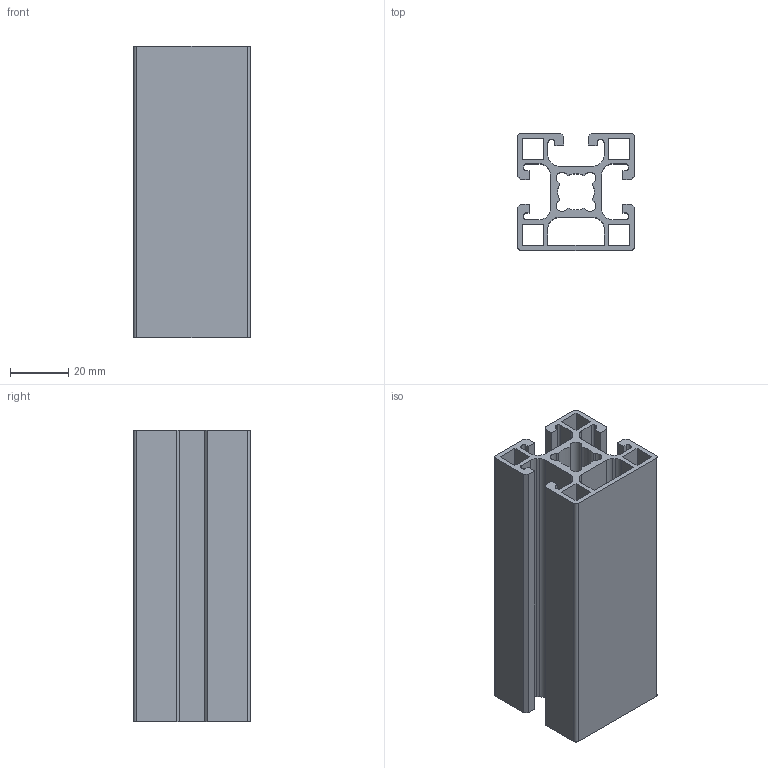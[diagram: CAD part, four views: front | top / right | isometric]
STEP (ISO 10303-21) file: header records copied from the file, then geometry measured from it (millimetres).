
FILE_DESCRIPTION((''),'2;1');
FILE_NAME('C:\Users\de2afr0\Desktop\New folder\MS40+ B - T 40x40.stp','2014-02-28T13:08:26',('de2afr0'),(''),'Autodesk Inventor 2011','Autodesk Inventor 2011','');
FILE_SCHEMA(('AUTOMOTIVE_DESIGN { 1 0 10303 214 1 1 1 1 }'));
Length unit declared in the file: millimetre
Products named in the file (1): MB01158701
Bounding box: 40 x 40 x 100 mm (x, y, z)
Volume: 52875.4 mm3; surface area: 53026.6 mm2
Topology: 1 solids, 1 shells, 124 faces, 366 edges, 244 vertices
Faces by surface type: plane 84, cylinder 40
Entity records: 4180 total; most frequent: CARTESIAN_POINT 735, ORIENTED_EDGE 732, DIRECTION 696, EDGE_CURVE 366, VECTOR 286, LINE 286, VERTEX_POINT 244, AXIS2_PLACEMENT_3D 205
